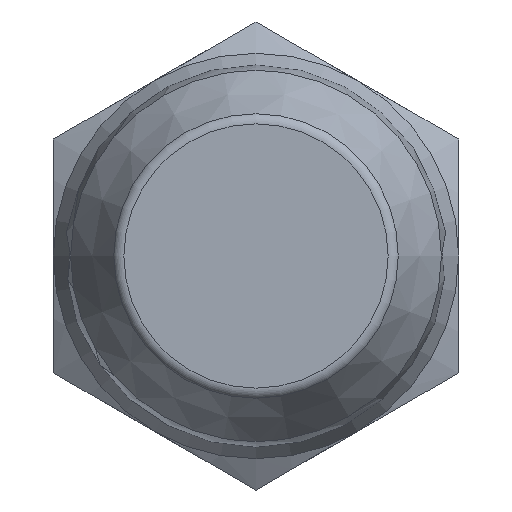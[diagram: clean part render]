
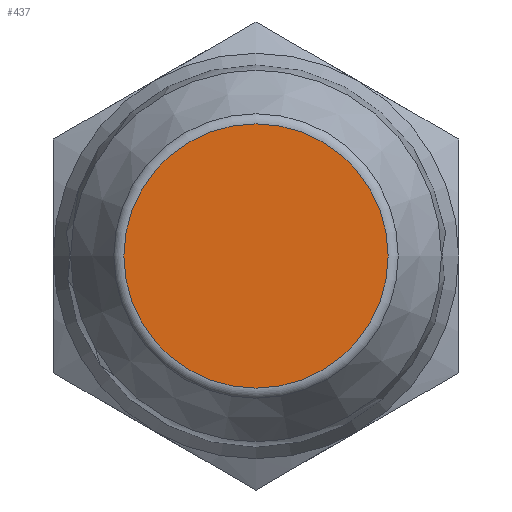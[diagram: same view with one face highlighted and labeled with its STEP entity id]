
A CAD part, left-side view. The second image highlights one B-rep face of the part: STEP entity #437.
In plain terms, the highlighted planar face has unit normal (-1, 0, 0).
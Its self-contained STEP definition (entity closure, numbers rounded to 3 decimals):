
#52=PLANE('',#514);
#80=FACE_OUTER_BOUND('',#110,.T.);
#110=EDGE_LOOP('',(#369));
#159=CIRCLE('',#509,2.281);
#200=VERTEX_POINT('',#810);
#261=EDGE_CURVE('',#200,#200,#159,.T.);
#369=ORIENTED_EDGE('',*,*,#261,.F.);
#437=ADVANCED_FACE('',(#80),#52,.T.);
#509=AXIS2_PLACEMENT_3D('',#812,#621,#622);
#514=AXIS2_PLACEMENT_3D('',#821,#632,#633);
#621=DIRECTION('center_axis',(1.,0.,0.));
#622=DIRECTION('ref_axis',(0.,-1.,0.));
#632=DIRECTION('center_axis',(-1.,0.,0.));
#633=DIRECTION('ref_axis',(0.,0.,1.));
#810=CARTESIAN_POINT('',(-8.8,0.,2.281));
#812=CARTESIAN_POINT('Origin',(-8.8,0.,0.));
#821=CARTESIAN_POINT('Origin',(-8.8,1.2,0.));
